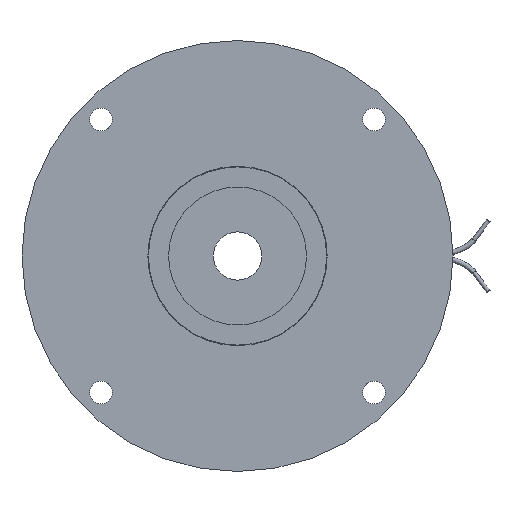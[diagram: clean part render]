
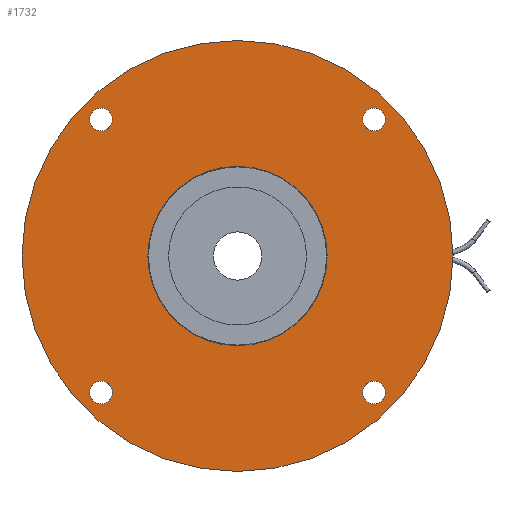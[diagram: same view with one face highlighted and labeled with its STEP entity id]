
A CAD part, left-side view. The second image highlights one B-rep face of the part: STEP entity #1732.
In plain terms, the highlighted planar face has unit normal (-1, 0, 0).
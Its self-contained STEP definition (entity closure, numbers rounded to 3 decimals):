
#54=FACE_BOUND('',#435,.T.);
#55=FACE_BOUND('',#436,.T.);
#56=FACE_BOUND('',#437,.T.);
#57=FACE_BOUND('',#438,.T.);
#58=FACE_BOUND('',#439,.T.);
#213=PLANE('',#1911);
#278=FACE_OUTER_BOUND('',#434,.T.);
#434=EDGE_LOOP('',(#1274));
#435=EDGE_LOOP('',(#1275));
#436=EDGE_LOOP('',(#1276));
#437=EDGE_LOOP('',(#1277));
#438=EDGE_LOOP('',(#1278));
#439=EDGE_LOOP('',(#1279));
#640=CIRCLE('',#1876,3.3);
#642=CIRCLE('',#1879,3.3);
#644=CIRCLE('',#1882,3.3);
#646=CIRCLE('',#1885,3.3);
#649=CIRCLE('',#1889,62.5);
#659=CIRCLE('',#1910,26.);
#810=VERTEX_POINT('',#3024);
#812=VERTEX_POINT('',#3029);
#814=VERTEX_POINT('',#3034);
#816=VERTEX_POINT('',#3039);
#819=VERTEX_POINT('',#3046);
#829=VERTEX_POINT('',#3077);
#989=EDGE_CURVE('',#810,#810,#640,.T.);
#991=EDGE_CURVE('',#812,#812,#642,.T.);
#993=EDGE_CURVE('',#814,#814,#644,.T.);
#995=EDGE_CURVE('',#816,#816,#646,.T.);
#998=EDGE_CURVE('',#819,#819,#649,.T.);
#1008=EDGE_CURVE('',#829,#829,#659,.T.);
#1274=ORIENTED_EDGE('',*,*,#998,.F.);
#1275=ORIENTED_EDGE('',*,*,#989,.T.);
#1276=ORIENTED_EDGE('',*,*,#991,.T.);
#1277=ORIENTED_EDGE('',*,*,#993,.T.);
#1278=ORIENTED_EDGE('',*,*,#995,.T.);
#1279=ORIENTED_EDGE('',*,*,#1008,.T.);
#1732=ADVANCED_FACE('',(#278,#54,#55,#56,#57,#58),#213,.T.);
#1876=AXIS2_PLACEMENT_3D('',#3025,#2226,#2227);
#1879=AXIS2_PLACEMENT_3D('',#3030,#2232,#2233);
#1882=AXIS2_PLACEMENT_3D('',#3035,#2238,#2239);
#1885=AXIS2_PLACEMENT_3D('',#3040,#2244,#2245);
#1889=AXIS2_PLACEMENT_3D('',#3047,#2252,#2253);
#1910=AXIS2_PLACEMENT_3D('',#3078,#2294,#2295);
#1911=AXIS2_PLACEMENT_3D('',#3079,#2296,#2297);
#2226=DIRECTION('center_axis',(1.,0.,0.));
#2227=DIRECTION('ref_axis',(0.,0.,-1.));
#2232=DIRECTION('center_axis',(1.,0.,0.));
#2233=DIRECTION('ref_axis',(0.,0.,-1.));
#2238=DIRECTION('center_axis',(1.,0.,0.));
#2239=DIRECTION('ref_axis',(0.,0.,-1.));
#2244=DIRECTION('center_axis',(1.,0.,0.));
#2245=DIRECTION('ref_axis',(0.,0.,-1.));
#2252=DIRECTION('center_axis',(1.,0.,0.));
#2253=DIRECTION('ref_axis',(0.,0.,-1.));
#2294=DIRECTION('center_axis',(1.,0.,0.));
#2295=DIRECTION('ref_axis',(0.,0.,-1.));
#2296=DIRECTION('center_axis',(-1.,0.,0.));
#2297=DIRECTION('ref_axis',(0.,0.,1.));
#3024=CARTESIAN_POINT('',(-11.,-39.598,-36.298));
#3025=CARTESIAN_POINT('Origin',(-11.,-39.598,-39.598));
#3029=CARTESIAN_POINT('',(-11.,39.598,42.898));
#3030=CARTESIAN_POINT('Origin',(-11.,39.598,39.598));
#3034=CARTESIAN_POINT('',(-11.,-39.598,42.898));
#3035=CARTESIAN_POINT('Origin',(-11.,-39.598,39.598));
#3039=CARTESIAN_POINT('',(-11.,39.598,-36.298));
#3040=CARTESIAN_POINT('Origin',(-11.,39.598,-39.598));
#3046=CARTESIAN_POINT('',(-11.,62.5,0.));
#3047=CARTESIAN_POINT('Origin',(-11.,0.,0.));
#3077=CARTESIAN_POINT('',(-11.,26.,0.));
#3078=CARTESIAN_POINT('Origin',(-11.,0.,0.));
#3079=CARTESIAN_POINT('Origin',(-11.,62.5,0.));
